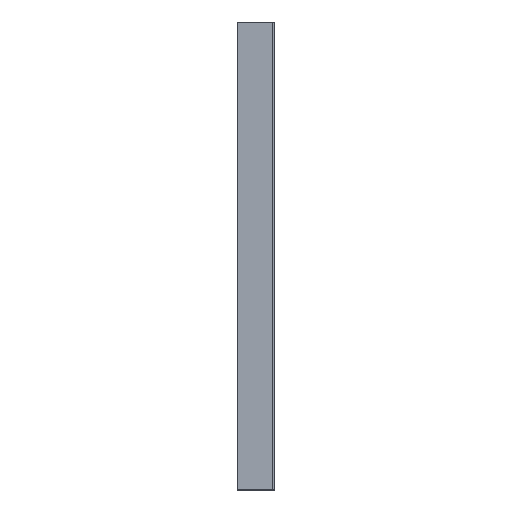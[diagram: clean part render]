
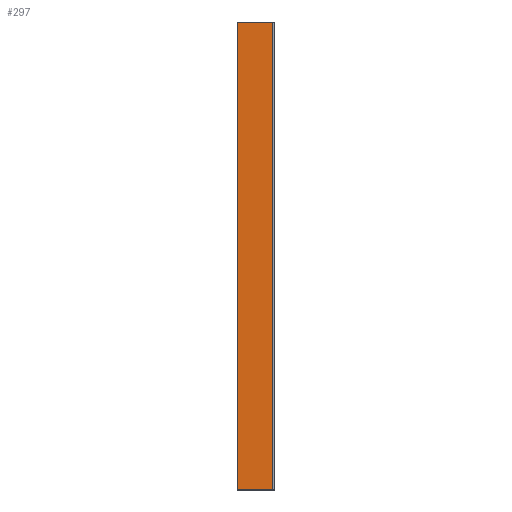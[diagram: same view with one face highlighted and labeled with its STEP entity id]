
A CAD part, left-side view. The second image highlights one B-rep face of the part: STEP entity #297.
In plain terms, the highlighted planar face has unit normal (-1, 0, 0).
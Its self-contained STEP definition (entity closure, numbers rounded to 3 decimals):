
#3 = VERTEX_POINT ( 'NONE', #268 ) ;
#6 = ORIENTED_EDGE ( 'NONE', *, *, #359, .T. ) ;
#8 = ORIENTED_EDGE ( 'NONE', *, *, #360, .F. ) ;
#25 = VECTOR ( 'NONE', #168, 1000. ) ;
#28 = LINE ( 'NONE', #170, #25 ) ;
#32 = VECTOR ( 'NONE', #177, 1000. ) ;
#34 = VECTOR ( 'NONE', #181, 1000. ) ;
#35 = LINE ( 'NONE', #179, #32 ) ;
#42 = LINE ( 'NONE', #199, #34 ) ;
#57 = VECTOR ( 'NONE', #217, 1000. ) ;
#60 = LINE ( 'NONE', #219, #57 ) ;
#74 = ORIENTED_EDGE ( 'NONE', *, *, #344, .T. ) ;
#109 = FACE_OUTER_BOUND ( 'NONE', #128, .T. ) ;
#115 = VERTEX_POINT ( 'NONE', #226 ) ;
#119 = VERTEX_POINT ( 'NONE', #214 ) ;
#121 = VERTEX_POINT ( 'NONE', #213 ) ;
#128 = EDGE_LOOP ( 'NONE', ( #6, #8, #131, #74 ) ) ;
#131 = ORIENTED_EDGE ( 'NONE', *, *, #363, .F. ) ;
#162 = DIRECTION ( 'NONE',  ( 1., 0., 0. ) ) ;
#168 = DIRECTION ( 'NONE',  ( 0., 0., 1. ) ) ;
#170 = CARTESIAN_POINT ( 'NONE',  ( 0., 3., -20. ) ) ;
#177 = DIRECTION ( 'NONE',  ( 0., -1., 0. ) ) ;
#178 = CARTESIAN_POINT ( 'NONE',  ( 0., 3., -20. ) ) ;
#179 = CARTESIAN_POINT ( 'NONE',  ( 0., 3., 20. ) ) ;
#180 = PLANE ( 'NONE',  #343 ) ;
#181 = DIRECTION ( 'NONE',  ( 0., 0., 1. ) ) ;
#199 = CARTESIAN_POINT ( 'NONE',  ( 0., 0., -20. ) ) ;
#213 = CARTESIAN_POINT ( 'NONE',  ( 0., 3., 20. ) ) ;
#214 = CARTESIAN_POINT ( 'NONE',  ( 0., 0., 20. ) ) ;
#217 = DIRECTION ( 'NONE',  ( 0., -1., 0. ) ) ;
#219 = CARTESIAN_POINT ( 'NONE',  ( 0., 3., -20. ) ) ;
#226 = CARTESIAN_POINT ( 'NONE',  ( 0., 0., -20. ) ) ;
#252 = DIRECTION ( 'NONE',  ( 0., 0., -1. ) ) ;
#268 = CARTESIAN_POINT ( 'NONE',  ( 0., 3., -20. ) ) ;
#297 = ADVANCED_FACE ( 'NONE', ( #109 ), #180, .F. ) ;
#343 = AXIS2_PLACEMENT_3D ( 'NONE', #178, #162, #252 ) ;
#344 = EDGE_CURVE ( 'NONE', #3, #115, #60, .T. ) ;
#359 = EDGE_CURVE ( 'NONE', #115, #119, #42, .T. ) ;
#360 = EDGE_CURVE ( 'NONE', #121, #119, #35, .T. ) ;
#363 = EDGE_CURVE ( 'NONE', #3, #121, #28, .T. ) ;
